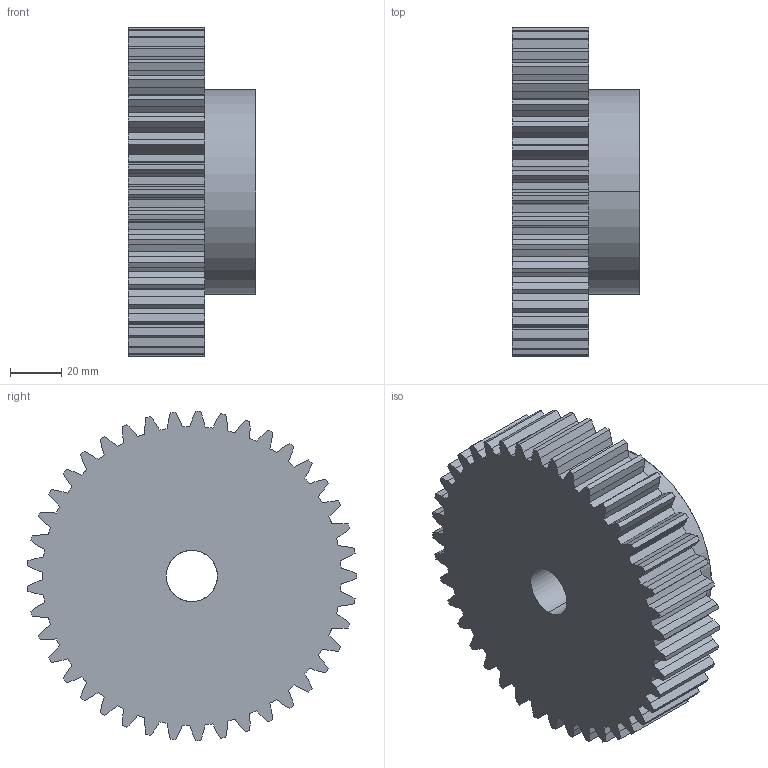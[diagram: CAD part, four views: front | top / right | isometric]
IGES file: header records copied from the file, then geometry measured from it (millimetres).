
Start section: SolidWorks IGES file using analytic representation for surfaces
Global section: file name: C:\Users\Honza\Desktop\Matis (Hotove)\Èelní ozubená kola\PM\MODUL 3\PM 30041.IGS; native system: SolidWorks 2010; preprocessor: SolidWorks 2010; author: Honza; date: 130925.160327; units: millimetre
Bounding box: 50 x 128.88 x 128.97 mm (x, y, z)
Surface area: 52934.2 mm2 (no closed solid volume)
Topology: 0 solids, 0 shells, 253 faces, 1695 edges, 1695 vertices
Faces by surface type: bspline 167, revolution 86
